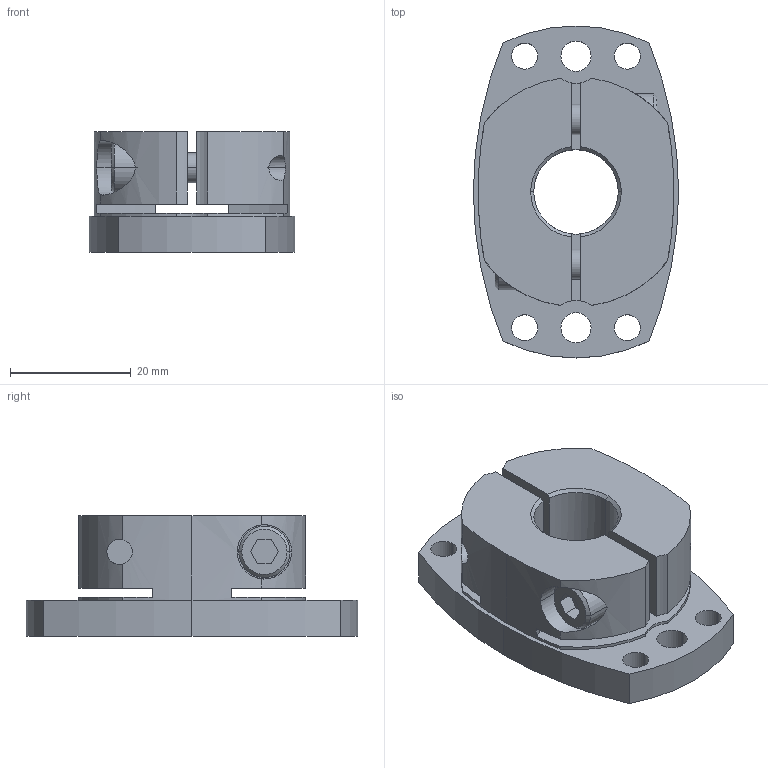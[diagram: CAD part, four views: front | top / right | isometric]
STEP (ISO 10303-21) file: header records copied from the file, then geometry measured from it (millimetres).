
FILE_DESCRIPTION((''),'2;1');
FILE_NAME('SHDB-55B-14.stp','2026-01-28T07:42:08',(''),(''),'AutoCAD STEP 2000i','AutoCAD 2000i',', , ');
FILE_SCHEMA(('CONFIG_CONTROL_DESIGN'));
Length unit declared in the file: millimetre
Products named in the file (2): SHDB-55B-10; 忣兜1
Assembly tree (1 placements, depth 2):
  SHDB-55B-10
    忣兜1
Bounding box: 34 x 55 x 20 mm (x, y, z)
Volume: 18773.1 mm3; surface area: 9134.2 mm2
Topology: 1 solids, 1 shells, 102 faces, 280 edges, 184 vertices
Faces by surface type: cylinder 58, plane 34, cone 10
Entity records: 3683 total; most frequent: CARTESIAN_POINT 856, DIRECTION 602, ORIENTED_EDGE 560, EDGE_CURVE 280, AXIS2_PLACEMENT_3D 238, VERTEX_POINT 184, CIRCLE 134, VECTOR 126
